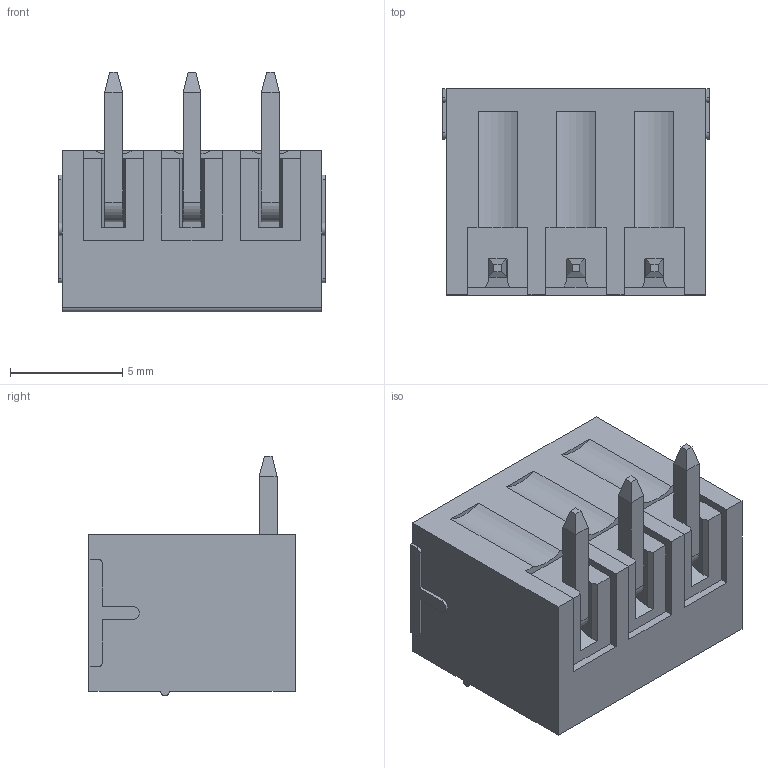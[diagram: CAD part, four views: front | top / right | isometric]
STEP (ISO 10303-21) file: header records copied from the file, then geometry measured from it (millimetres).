
FILE_DESCRIPTION((''),'2;1');
FILE_NAME('OQ0312510000G','2021-02-09T',('changsheng.chen'),(''),'CREO PARAMETRIC BY PTC INC, 2016260','CREO PARAMETRIC BY PTC INC, 2016260','');
FILE_SCHEMA(('CONFIG_CONTROL_DESIGN'));
Length unit declared in the file: millimetre
Products named in the file (1): OQ0312510000G
Bounding box: 11.9 x 9.2 x 10.7 mm (x, y, z)
Volume: 378.7 mm3; surface area: 1181.1 mm2
Topology: 1 solids, 28 shells, 385 faces, 930 edges, 610 vertices
Faces by surface type: plane 336, cylinder 37, torus 6, cone 6
Entity records: 11051 total; most frequent: CARTESIAN_POINT 1956, ORIENTED_EDGE 1860, DIRECTION 1798, EDGE_CURVE 930, VECTOR 820, LINE 820, VERTEX_POINT 610, AXIS2_PLACEMENT_3D 489
